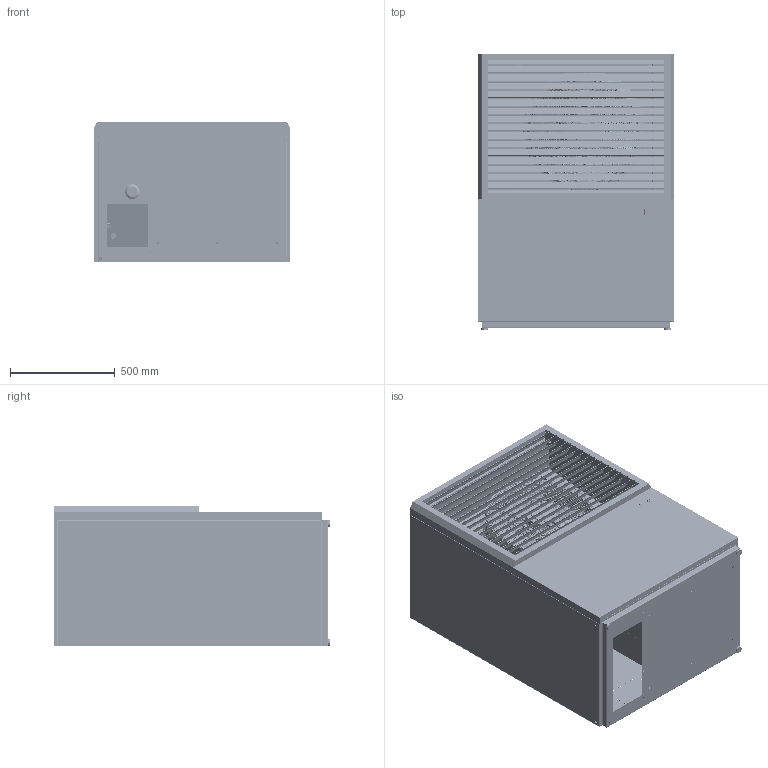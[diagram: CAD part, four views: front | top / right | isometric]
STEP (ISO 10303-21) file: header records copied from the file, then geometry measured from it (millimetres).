
FILE_DESCRIPTION (( 'STEP AP214' ), '1' );
FILE_NAME ('Air_9_STEP.STEP', '2023-08-02T08:32:07', ( '' ), ( '' ), 'SwSTEP 2.0', 'SolidWorks 2021', '' );
FILE_SCHEMA (( 'AUTOMOTIVE_DESIGN' ));
Length unit declared in the file: millimetre
Products named in the file (36): Air9+_2022Air9_klump_CONNECTOR, RJ-45; Air9+_2022Air9_klump_Thorsmans_Rev-1_Thorsmans 10-14; Air9+_2022Air9_klump_Print_relays-1; Air9+_2022Air9_klump_CTS700_SC_print-bopard; Air9+_2022Air9_klump_Air-9_74107b0150_UVP_kasse_sv鷷_Rev-1; Air9+_2022Air9_klump_Air-9_Inverterkasse; Air9_; Air9+_2022Air9_klump_Air-9_Transportbeslag_kondensafløb_Rev-1; Air9+_2022Air9_klump_Air-9_74107a0180_UVP_kasse_kontaktor_boks_Rev-1; Air9+_2022Air9_klump_Air-9_74107a0280_UVP_kasse_kontaktor_boks_låg_nederst; Nilan_Stillefod_M8 Stilfod; Air9+_2022Air9_klump_Air-9_dækplade_inverterkasse; Air9+_2022Air9_klump_Air-9_kompressor_kasse_Rev-1; Air9+_2022Air9_klump_CTS700_SC_print; Air9+_2022Air9_klump_PGxx_ledningsaflastning_EMC_PG11; Air9+_2022Air9_klump_Lille_lyn; Air9+_2022Air9_klump_Air-9_dækplade_for_servicehul; Air9+_2022Air9_klump_Thorsmans_Rev-1_Thorsmans 14-20; Air9+_2022Air9_klump_Thorsmans_Rev-1_Thorsmans 7-10; Air9+_2022Air9_klump_Air-9_74107b0140_UVP_kasse_bund_Rev-1; Air9+_2022Air9_klump_Gennemføringstylle_30x24; Air9+_2022Nilan_merkat; Air9+_2022Air9_klump_håndtag1; Air9+_2022Air9_klump_Printholder, låsende - 22mm; Air9+_2022Air9_klump_Skueglas_10mm; Air_9_STEP; Air9+_2022Air9_klump_Thorsmans_Rev-1_Thorsmans 26-35; Air9+_2022Air9_klump_EEV_controller; Air9+_2022Air9_klump_Air-9_74107b0160_UVP_kasse_toplåg_Rev-1; Air9+_2022Air9_klump_Air-9_74107a0170_UVP_kasse_kontaktor_boks_låg_Rev-1; Air9+_2022Air9_klump_håndtag2; Air9+_2022Air9_klump_Air-9_JVP_hatprofil_for_motorværn; Air9+_2022Air9_klump_Print_relays-1-a; Air9+_2022Air9_klump_Protex_Haandtag; Air9+_2022Air9_klump_CTS602_blå_dims; Air9+_2022Air9_klump_Ledningskanal BA6 40015_Ledningskanal BA6 40015 (uden l†g)
Assembly tree (70 placements, depth 4):
  Air_9_STEP
    Air9_
    Air9+_2022Air9_klump_Air-9_kompressor_kasse_Rev-1
      Air9+_2022Air9_klump_Air-9_Transportbeslag_kondensafløb_Rev-1
      Air9+_2022Air9_klump_Air-9_74107b0140_UVP_kasse_bund_Rev-1
      Air9+_2022Air9_klump_Air-9_74107a0170_UVP_kasse_kontaktor_boks_låg_Rev-1
      Air9+_2022Air9_klump_Air-9_74107a0280_UVP_kasse_kontaktor_boks_låg_nederst
      Air9+_2022Air9_klump_Air-9_74107a0180_UVP_kasse_kontaktor_boks_Rev-1
      Air9+_2022Air9_klump_Air-9_74107b0160_UVP_kasse_toplåg_Rev-1
      Air9+_2022Air9_klump_Air-9_74107b0150_UVP_kasse_sv鷷_Rev-1
      Air9+_2022Air9_klump_Air-9_Inverterkasse
      Air9+_2022Air9_klump_Air-9_dækplade_inverterkasse
      Air9+_2022Air9_klump_Air-9_dækplade_for_servicehul  x2
      Air9+_2022Air9_klump_Thorsmans_Rev-1_Thorsmans 14-20  x3
      Air9+_2022Air9_klump_Thorsmans_Rev-1_Thorsmans 7-10  x5
      Air9+_2022Air9_klump_Protex_Haandtag  x2
        Air9+_2022Air9_klump_håndtag2
        Air9+_2022Air9_klump_håndtag1
      Air9+_2022Air9_klump_Thorsmans_Rev-1_Thorsmans 10-14  x2
      Air9+_2022Air9_klump_Air-9_JVP_hatprofil_for_motorværn
      Air9+_2022Air9_klump_Skueglas_10mm
      Air9+_2022Air9_klump_Gennemføringstylle_30x24
      Air9+_2022Air9_klump_Thorsmans_Rev-1_Thorsmans 26-35  x2
      Air9+_2022Air9_klump_Lille_lyn  x2
      Air9+_2022Air9_klump_PGxx_ledningsaflastning_EMC_PG11
      Air9+_2022Air9_klump_Ledningskanal BA6 40015_Ledningskanal BA6 40015 (uden l†g)
      Air9+_2022Air9_klump_CTS700_SC_print
        Air9+_2022Air9_klump_CTS700_SC_print-bopard
        Air9+_2022Air9_klump_CONNECTOR, RJ-45
        Air9+_2022Air9_klump_Print_relays-1  x6
        Air9+_2022Air9_klump_CTS602_blå_dims  x10
        Air9+_2022Air9_klump_Print_relays-1-a  x5
        Air9+_2022Air9_klump_Printholder, låsende - 22mm  x5
      Air9+_2022Air9_klump_EEV_controller
    Air9+_2022Nilan_merkat
    Nilan_Stillefod_M8 Stilfod  x3
Bounding box: 938.05 x 1321.49 x 672.61 mm (x, y, z)
Volume: 114044603.3 mm3; surface area: 29262777 mm2
Topology: 118 solids, 118 shells, 11730 faces, 31080 edges, 19531 vertices
Faces by surface type: plane 6633, cylinder 3648, bspline 980, torus 210, cone 159, sphere 100
Entity records: 464582 total; most frequent: CARTESIAN_POINT 134409, ORIENTED_EDGE 57004, DIRECTION 51595, EDGE_CURVE 28502, VECTOR 18387, LINE 18387, VERTEX_POINT 18017, AXIS2_PLACEMENT_3D 16604
